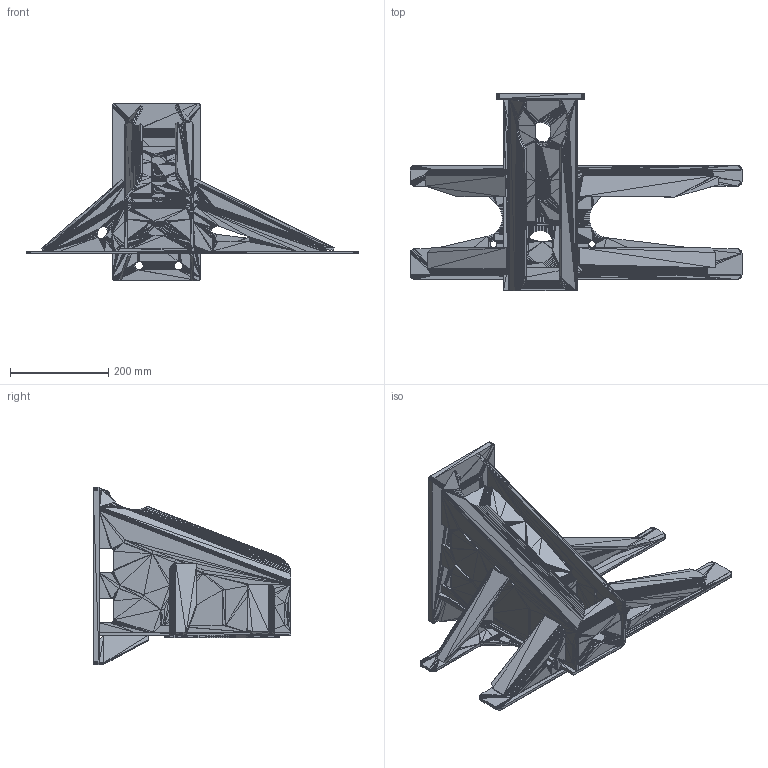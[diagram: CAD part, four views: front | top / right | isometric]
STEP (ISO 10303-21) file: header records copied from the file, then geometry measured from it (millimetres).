
FILE_DESCRIPTION(('HOOPS Exchange Step'),'2;1');
FILE_NAME('C:\Users\ametme3\OneDrive - HELLA GmbH & Co. KGaA\Shared Documents\SOE_Marketing_Internal\Product_Lines\Rear_Lamps\Unterfahrschutz\01 3D Daten\Brackets\3D_data_Bracket_left_right_9XX-340-383-02.stp','2023-02-14T11:39:28+01:00',('ametme3'),('Unknown organisation'),'HOOPS Exchange 2021.2','HOOPS Exchange','Unknown authorisation');
FILE_SCHEMA( ('AUTOMOTIVE_DESIGN { 1 0 10303 214 1 1 1 1 }') );
Length unit declared in the file: millimetre
Products named in the file (1): 10002990890_D10_001
Bounding box: 675 x 402 x 360 mm (x, y, z)
Surface area: 1222949.1 mm2 (no closed solid volume)
Topology: 0 solids, 542 shells, 9292 faces, 18733 edges, 9835 vertices
Faces by surface type: plane 9292
Entity records: 84239 total; most frequent: CARTESIAN_POINT 19128, DIRECTION 18586, AXIS2_PLACEMENT_3D 9293, PLANE 9292, POLY_LOOP 9292, FACE_OUTER_BOUND 9292, FACE_SURFACE 9292, CLOSED_SHELL 13
